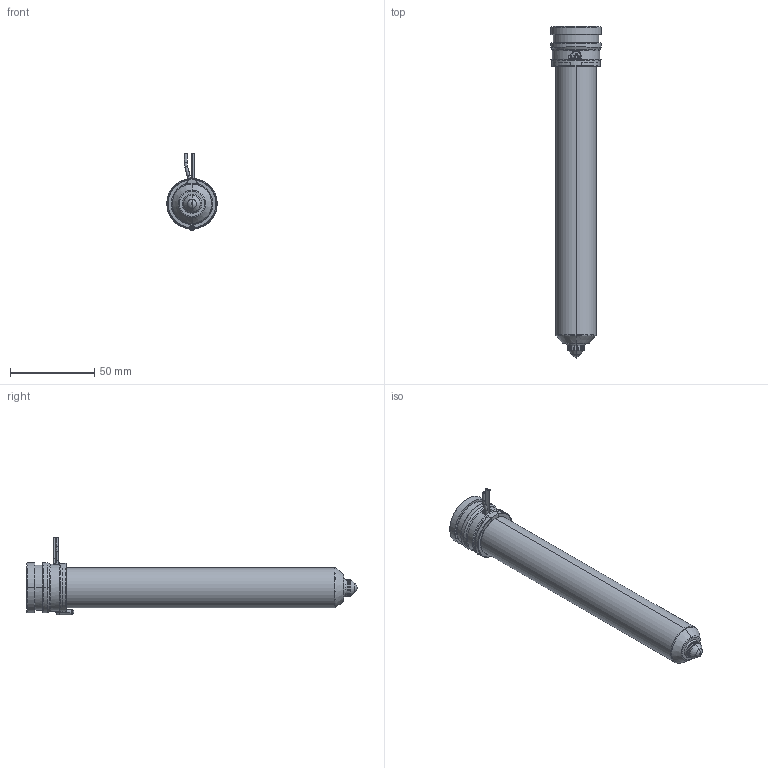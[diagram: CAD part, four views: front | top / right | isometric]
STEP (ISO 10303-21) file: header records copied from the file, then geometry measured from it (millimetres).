
FILE_DESCRIPTION((''),'2;1');
FILE_NAME('MPN-10-29-VX10-176-A','2026-02-05T12:41:35',('UPTIO'),('Thermoplay S.p.A.'),'CREO PARAMETRIC BY PTC INC, 2023494','CREO PARAMETRIC BY PTC INC, 2023494','');
FILE_SCHEMA(('CONFIG_CONTROL_DESIGN','SHAPE_APPEARANCE_LAYERS_GROUPS'));
Length unit declared in the file: millimetre
Products named in the file (1): MPN-10-29-VX10-176-A
Bounding box: 30 x 197.5 x 46 mm (x, y, z)
Volume: 60815.6 mm3; surface area: 61774.3 mm2
Topology: 2 solids, 3 shells, 557 faces, 1459 edges, 901 vertices
Faces by surface type: cylinder 182, plane 144, bspline 76, torus 72, cone 70, sphere 9, extrusion 4
Entity records: 30727 total; most frequent: CARTESIAN_POINT 14220, ORIENTED_EDGE 2906, DIRECTION 2711, EDGE_CURVE 1453, AXIS2_PLACEMENT_3D 1078, VERTEX_POINT 901, CIRCLE 600, EDGE_LOOP 586
